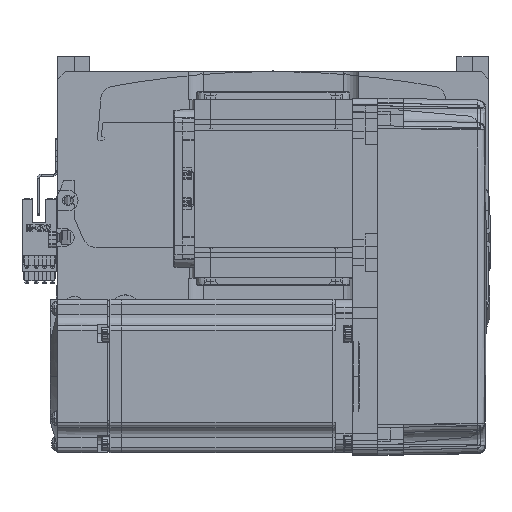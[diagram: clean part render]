
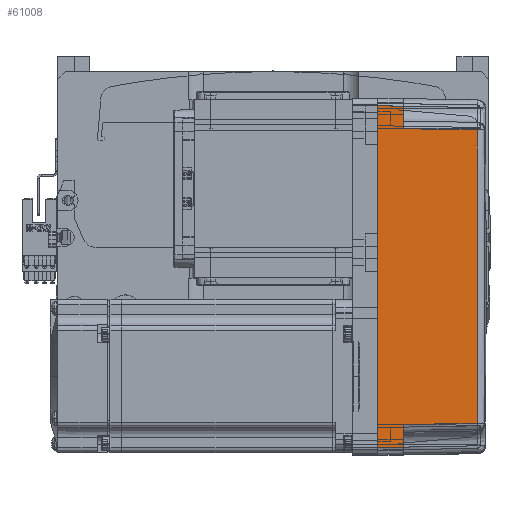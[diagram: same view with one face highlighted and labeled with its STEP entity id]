
A CAD part, top view. The second image highlights one B-rep face of the part: STEP entity #61008.
In plain terms, the highlighted planar face has unit normal (0.018, 0, 1) as drawn and (0, 1, 0.017) by its records, which use the part's own axes.
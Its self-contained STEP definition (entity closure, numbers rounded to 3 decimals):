
#2050 = CARTESIAN_POINT ( 'NONE',  ( -67., 36., 0. ) ) ;
#3136 = DIRECTION ( 'NONE',  ( -0.017, -0.017, 1. ) ) ;
#3486 = LINE ( 'NONE', #71061, #40100 ) ;
#3533 = FACE_OUTER_BOUND ( 'NONE', #57607, .T. ) ;
#4220 = CARTESIAN_POINT ( 'NONE',  ( -66.826, 35.825, 10. ) ) ;
#6166 = CARTESIAN_POINT ( 'NONE',  ( -58., 35.825, 10. ) ) ;
#6232 = CARTESIAN_POINT ( 'NONE',  ( -58., 35.825, 10. ) ) ;
#8498 = CARTESIAN_POINT ( 'NONE',  ( 57.495, 35.32, 38.985 ) ) ;
#10144 = EDGE_CURVE ( 'NONE', #71899, #35054, #46497, .T. ) ;
#10429 = CARTESIAN_POINT ( 'NONE',  ( -57.495, 35.32, 38.985 ) ) ;
#10635 = ORIENTED_EDGE ( 'NONE', *, *, #14695, .F. ) ;
#10801 = CARTESIAN_POINT ( 'NONE',  ( 57.495, 35.32, 38.985 ) ) ;
#12221 = ORIENTED_EDGE ( 'NONE', *, *, #53661, .T. ) ;
#12920 = EDGE_CURVE ( 'NONE', #15050, #16434, #71613, .T. ) ;
#12976 = LINE ( 'NONE', #24966, #57617 ) ;
#13091 = VECTOR ( 'NONE', #23388, 1000. ) ;
#14695 = EDGE_CURVE ( 'NONE', #26040, #16434, #3486, .T. ) ;
#15050 = VERTEX_POINT ( 'NONE', #46173 ) ;
#15554 = DIRECTION ( 'NONE',  ( 0., -0.017, 1. ) ) ;
#16318 = B_SPLINE_CURVE_WITH_KNOTS ( 'NONE', 3,
 ( #22038, #68520, #39272, #10801 ),
 .UNSPECIFIED., .F., .F.,
 ( 4, 4 ),
 ( 0., 1. ),
 .UNSPECIFIED. ) ;
#16417 = CARTESIAN_POINT ( 'NONE',  ( 66.826, 35.825, 10. ) ) ;
#16434 = VERTEX_POINT ( 'NONE', #16417 ) ;
#18339 = DIRECTION ( 'NONE',  ( 0.017, -0.017, 1. ) ) ;
#19037 = EDGE_CURVE ( 'NONE', #40546, #71899, #39080, .T. ) ;
#19042 = VECTOR ( 'NONE', #65451, 1000. ) ;
#19898 = EDGE_CURVE ( 'NONE', #35054, #22924, #37145, .T. ) ;
#21755 = CARTESIAN_POINT ( 'NONE',  ( 70., 35.825, 10. ) ) ;
#21792 = PLANE ( 'NONE',  #50547 ) ;
#22038 = CARTESIAN_POINT ( 'NONE',  ( -57.495, 35.32, 38.985 ) ) ;
#22806 = DIRECTION ( 'NONE',  ( 1., 0., 0. ) ) ;
#22924 = VERTEX_POINT ( 'NONE', #10429 ) ;
#23388 = DIRECTION ( 'NONE',  ( 0.017, -0.017, 1. ) ) ;
#24966 = CARTESIAN_POINT ( 'NONE',  ( 0., 36., 0. ) ) ;
#26040 = VERTEX_POINT ( 'NONE', #38911 ) ;
#26589 = CARTESIAN_POINT ( 'NONE',  ( -67., 36., 0. ) ) ;
#28061 = CARTESIAN_POINT ( 'NONE',  ( 70., 35.825, 10. ) ) ;
#28838 = LINE ( 'NONE', #8498, #19042 ) ;
#30726 = DIRECTION ( 'NONE',  ( 1., 0., 0. ) ) ;
#33263 = DIRECTION ( 'NONE',  ( 1., 0., 0. ) ) ;
#33299 = DIRECTION ( 'NONE',  ( 0., 1., 0.017 ) ) ;
#34876 = VECTOR ( 'NONE', #22806, 1000. ) ;
#35054 = VERTEX_POINT ( 'NONE', #6232 ) ;
#35441 = CARTESIAN_POINT ( 'NONE',  ( 57.495, 35.32, 38.985 ) ) ;
#35770 = ORIENTED_EDGE ( 'NONE', *, *, #10144, .T. ) ;
#36082 = VERTEX_POINT ( 'NONE', #35441 ) ;
#37145 = LINE ( 'NONE', #6166, #13091 ) ;
#38911 = CARTESIAN_POINT ( 'NONE',  ( 67., 36., 0. ) ) ;
#39080 = LINE ( 'NONE', #2050, #40850 ) ;
#39272 = CARTESIAN_POINT ( 'NONE',  ( 19.165, 35.316, 39.181 ) ) ;
#40100 = VECTOR ( 'NONE', #3136, 1000. ) ;
#40546 = VERTEX_POINT ( 'NONE', #26589 ) ;
#40850 = VECTOR ( 'NONE', #18339, 1000. ) ;
#41237 = VECTOR ( 'NONE', #33263, 1000. ) ;
#42978 = ORIENTED_EDGE ( 'NONE', *, *, #54652, .F. ) ;
#46173 = CARTESIAN_POINT ( 'NONE',  ( 58., 35.825, 10. ) ) ;
#46497 = LINE ( 'NONE', #28061, #34876 ) ;
#50547 = AXIS2_PLACEMENT_3D ( 'NONE', #56259, #33299, #15554 ) ;
#52114 = EDGE_CURVE ( 'NONE', #36082, #15050, #28838, .T. ) ;
#53661 = EDGE_CURVE ( 'NONE', #22924, #36082, #16318, .T. ) ;
#54652 = EDGE_CURVE ( 'NONE', #40546, #26040, #12976, .T. ) ;
#56073 = ORIENTED_EDGE ( 'NONE', *, *, #52114, .T. ) ;
#56259 = CARTESIAN_POINT ( 'NONE',  ( 70., 36., 0. ) ) ;
#57607 = EDGE_LOOP ( 'NONE', ( #67865, #35770, #61494, #12221, #56073, #70575, #10635, #42978 ) ) ;
#57617 = VECTOR ( 'NONE', #30726, 1000. ) ;
#61008 = ADVANCED_FACE ( 'NONE', ( #3533 ), #21792, .T. ) ;
#61494 = ORIENTED_EDGE ( 'NONE', *, *, #19898, .T. ) ;
#65451 = DIRECTION ( 'NONE',  ( 0.017, 0.017, -1. ) ) ;
#67865 = ORIENTED_EDGE ( 'NONE', *, *, #19037, .T. ) ;
#68520 = CARTESIAN_POINT ( 'NONE',  ( -19.165, 35.316, 39.181 ) ) ;
#70575 = ORIENTED_EDGE ( 'NONE', *, *, #12920, .T. ) ;
#71061 = CARTESIAN_POINT ( 'NONE',  ( 67.001, 36.001, -0.052 ) ) ;
#71613 = LINE ( 'NONE', #21755, #41237 ) ;
#71899 = VERTEX_POINT ( 'NONE', #4220 ) ;
